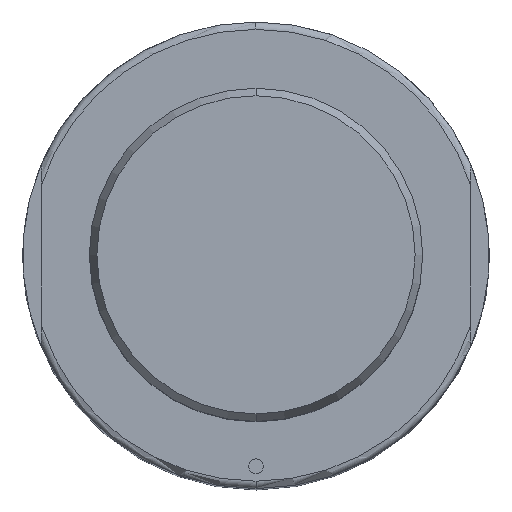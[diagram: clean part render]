
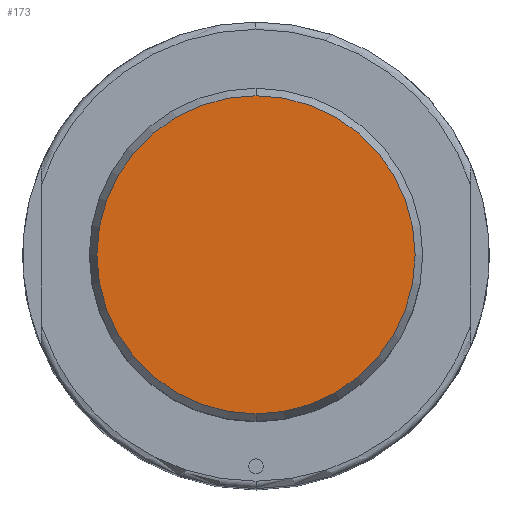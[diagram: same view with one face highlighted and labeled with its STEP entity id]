
A CAD part, top view. The second image highlights one B-rep face of the part: STEP entity #173.
In plain terms, the highlighted planar face has unit normal (0, 0, 1).
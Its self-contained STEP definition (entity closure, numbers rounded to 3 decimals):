
#124=PLANE('',#990);
#173=ADVANCED_FACE('',(#244),#124,.T.);
#244=FACE_OUTER_BOUND('',#297,.T.);
#297=EDGE_LOOP('',(#457,#458));
#364=CIRCLE('',#975,21.481);
#365=CIRCLE('',#977,21.481);
#457=ORIENTED_EDGE('',*,*,#758,.F.);
#458=ORIENTED_EDGE('',*,*,#759,.F.);
#677=VERTEX_POINT('',#1413);
#680=VERTEX_POINT('',#1418);
#758=EDGE_CURVE('',#680,#677,#364,.T.);
#759=EDGE_CURVE('',#677,#680,#365,.T.);
#975=AXIS2_PLACEMENT_3D('',#1419,#1109,#1110);
#977=AXIS2_PLACEMENT_3D('',#1421,#1113,#1114);
#990=AXIS2_PLACEMENT_3D('',#1444,#1143,#1144);
#1109=DIRECTION('',(0.,0.,-1.));
#1110=DIRECTION('',(-1.,0.,0.));
#1113=DIRECTION('',(0.,0.,-1.));
#1114=DIRECTION('',(1.,0.,0.));
#1143=DIRECTION('',(0.,0.,1.));
#1144=DIRECTION('',(0.,-1.,0.));
#1413=CARTESIAN_POINT('',(0.,-21.481,145.));
#1418=CARTESIAN_POINT('',(0.,21.481,145.));
#1419=CARTESIAN_POINT('',(0.,0.,145.));
#1421=CARTESIAN_POINT('',(0.,0.,145.));
#1444=CARTESIAN_POINT('',(0.,0.,145.));
